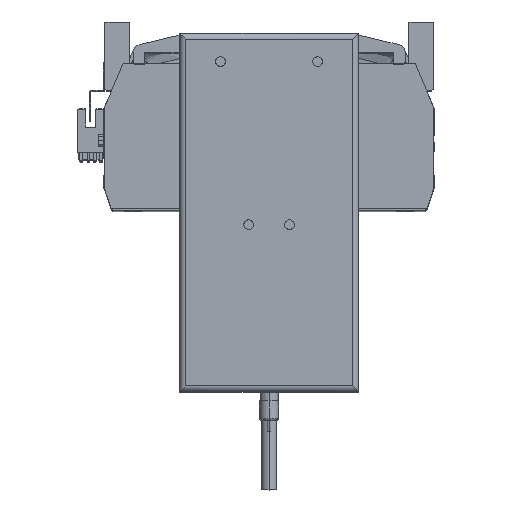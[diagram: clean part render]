
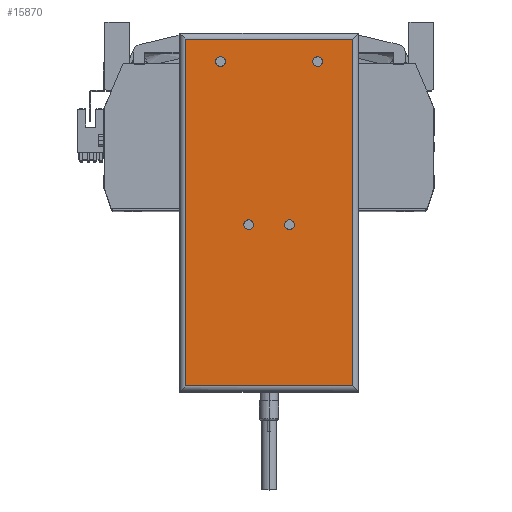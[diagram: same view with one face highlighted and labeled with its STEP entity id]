
A CAD part, top view. The second image highlights one B-rep face of the part: STEP entity #15870.
In plain terms, the highlighted planar face has unit normal (0, 0, 1) as drawn and (0, 0, -1) by its records, which use the part's own axes.
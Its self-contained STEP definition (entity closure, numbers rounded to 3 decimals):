
#134 = ORIENTED_EDGE ( 'NONE', *, *, #1371, .F. ) ;
#139 = EDGE_CURVE ( 'NONE', #4496, #37534, #4787, .T. ) ;
#1129 = CARTESIAN_POINT ( 'NONE',  ( -22.5, 77.75, 0. ) ) ;
#1210 = AXIS2_PLACEMENT_3D ( 'NONE', #12170, #4014, #11844 ) ;
#1371 = EDGE_CURVE ( 'NONE', #39621, #24571, #11243, .T. ) ;
#1943 = CARTESIAN_POINT ( 'NONE',  ( -25., 77.75, 0. ) ) ;
#2678 = ORIENTED_EDGE ( 'NONE', *, *, #3583, .F. ) ;
#2902 = VECTOR ( 'NONE', #12809, 1000. ) ;
#3386 = CIRCLE ( 'NONE', #1210, 2.5 ) ;
#3583 = EDGE_CURVE ( 'NONE', #28518, #31297, #12890, .T. ) ;
#3685 = AXIS2_PLACEMENT_3D ( 'NONE', #5775, #48059, #9919 ) ;
#3690 = VERTEX_POINT ( 'NONE', #48688 ) ;
#3797 = ORIENTED_EDGE ( 'NONE', *, *, #28939, .T. ) ;
#4014 = DIRECTION ( 'NONE',  ( 0., 0., -1. ) ) ;
#4045 = AXIS2_PLACEMENT_3D ( 'NONE', #43435, #43262, #12564 ) ;
#4460 = DIRECTION ( 'NONE',  ( -1., 0., 0. ) ) ;
#4471 = EDGE_LOOP ( 'NONE', ( #17378, #12291 ) ) ;
#4496 = VERTEX_POINT ( 'NONE', #41990 ) ;
#4631 = CARTESIAN_POINT ( 'NONE',  ( -43., -89.25, 0. ) ) ;
#4787 = CIRCLE ( 'NONE', #3685, 2.5 ) ;
#5355 = ORIENTED_EDGE ( 'NONE', *, *, #28790, .T. ) ;
#5361 = ORIENTED_EDGE ( 'NONE', *, *, #46850, .T. ) ;
#5427 = FACE_BOUND ( 'NONE', #12116, .T. ) ;
#5542 = PLANE ( 'NONE',  #49041 ) ;
#5775 = CARTESIAN_POINT ( 'NONE',  ( 10.5, -6.25, 0. ) ) ;
#6413 = CARTESIAN_POINT ( 'NONE',  ( -46., 89.25, 0. ) ) ;
#6464 = CARTESIAN_POINT ( 'NONE',  ( -46., -89.25, 0. ) ) ;
#6624 = EDGE_CURVE ( 'NONE', #29525, #3690, #25799, .T. ) ;
#7854 = VECTOR ( 'NONE', #25833, 1000. ) ;
#9359 = DIRECTION ( 'NONE',  ( 0., 0., 1. ) ) ;
#9919 = DIRECTION ( 'NONE',  ( -1., 0., 0. ) ) ;
#9979 = AXIS2_PLACEMENT_3D ( 'NONE', #19242, #11352, #41741 ) ;
#10278 = DIRECTION ( 'NONE',  ( -1., 0., 0. ) ) ;
#10706 = EDGE_CURVE ( 'NONE', #18763, #43748, #35216, .T. ) ;
#10748 = ORIENTED_EDGE ( 'NONE', *, *, #6624, .T. ) ;
#11243 = CIRCLE ( 'NONE', #4045, 2.5 ) ;
#11352 = DIRECTION ( 'NONE',  ( 0., 0., -1. ) ) ;
#11844 = DIRECTION ( 'NONE',  ( -1., 0., 0. ) ) ;
#12001 = EDGE_CURVE ( 'NONE', #24571, #39621, #38130, .T. ) ;
#12116 = EDGE_LOOP ( 'NONE', ( #23525, #134 ) ) ;
#12170 = CARTESIAN_POINT ( 'NONE',  ( 10.5, -6.25, 0. ) ) ;
#12291 = ORIENTED_EDGE ( 'NONE', *, *, #139, .F. ) ;
#12483 = CARTESIAN_POINT ( 'NONE',  ( -8., -6.25, 0. ) ) ;
#12564 = DIRECTION ( 'NONE',  ( -1., 0., 0. ) ) ;
#12809 = DIRECTION ( 'NONE',  ( 0., 1., 0. ) ) ;
#12890 = CIRCLE ( 'NONE', #16085, 2.5 ) ;
#13217 = DIRECTION ( 'NONE',  ( 1., 0., 0. ) ) ;
#14982 = FACE_BOUND ( 'NONE', #27461, .T. ) ;
#15870 = ADVANCED_FACE ( 'NONE', ( #29913, #5427, #48049, #14982, #26953 ), #5542, .F. ) ;
#16085 = AXIS2_PLACEMENT_3D ( 'NONE', #1943, #40614, #36399 ) ;
#17378 = ORIENTED_EDGE ( 'NONE', *, *, #19984, .F. ) ;
#18763 = VERTEX_POINT ( 'NONE', #30863 ) ;
#18776 = VERTEX_POINT ( 'NONE', #4631 ) ;
#18882 = VECTOR ( 'NONE', #10278, 1000. ) ;
#19052 = CARTESIAN_POINT ( 'NONE',  ( 43., 89.25, 0. ) ) ;
#19053 = CARTESIAN_POINT ( 'NONE',  ( -25., 77.75, 0. ) ) ;
#19242 = CARTESIAN_POINT ( 'NONE',  ( 25., 77.75, 0. ) ) ;
#19984 = EDGE_CURVE ( 'NONE', #37534, #4496, #3386, .T. ) ;
#20110 = EDGE_LOOP ( 'NONE', ( #44024, #24581 ) ) ;
#20271 = CARTESIAN_POINT ( 'NONE',  ( -10.5, -6.25, 0. ) ) ;
#20429 = DIRECTION ( 'NONE',  ( -1., 0., 0. ) ) ;
#21845 = CARTESIAN_POINT ( 'NONE',  ( 43., -92.25, 0. ) ) ;
#21936 = AXIS2_PLACEMENT_3D ( 'NONE', #19053, #27341, #4460 ) ;
#23064 = CARTESIAN_POINT ( 'NONE',  ( -27.5, 77.75, 0. ) ) ;
#23525 = ORIENTED_EDGE ( 'NONE', *, *, #12001, .F. ) ;
#24571 = VERTEX_POINT ( 'NONE', #28389 ) ;
#24581 = ORIENTED_EDGE ( 'NONE', *, *, #10706, .F. ) ;
#24679 = DIRECTION ( 'NONE',  ( -1., 0., 0. ) ) ;
#25799 = LINE ( 'NONE', #21845, #7854 ) ;
#25833 = DIRECTION ( 'NONE',  ( 0., -1., 0. ) ) ;
#25920 = CARTESIAN_POINT ( 'NONE',  ( 8., -6.25, 0. ) ) ;
#26953 = FACE_BOUND ( 'NONE', #20110, .T. ) ;
#27341 = DIRECTION ( 'NONE',  ( 0., 0., -1. ) ) ;
#27367 = LINE ( 'NONE', #39337, #2902 ) ;
#27461 = EDGE_LOOP ( 'NONE', ( #42481, #2678 ) ) ;
#28389 = CARTESIAN_POINT ( 'NONE',  ( -13., -6.25, 0. ) ) ;
#28518 = VERTEX_POINT ( 'NONE', #1129 ) ;
#28588 = CIRCLE ( 'NONE', #9979, 2.5 ) ;
#28790 = EDGE_CURVE ( 'NONE', #42916, #29525, #30828, .T. ) ;
#28939 = EDGE_CURVE ( 'NONE', #3690, #18776, #39293, .T. ) ;
#29525 = VERTEX_POINT ( 'NONE', #19052 ) ;
#29913 = FACE_OUTER_BOUND ( 'NONE', #36591, .T. ) ;
#30828 = LINE ( 'NONE', #6413, #32661 ) ;
#30863 = CARTESIAN_POINT ( 'NONE',  ( 27.5, 77.75, 0. ) ) ;
#31297 = VERTEX_POINT ( 'NONE', #23064 ) ;
#32661 = VECTOR ( 'NONE', #37453, 1000. ) ;
#32917 = CARTESIAN_POINT ( 'NONE',  ( -43., 89.25, 0. ) ) ;
#35216 = CIRCLE ( 'NONE', #41715, 2.5 ) ;
#35680 = DIRECTION ( 'NONE',  ( 0., 0., -1. ) ) ;
#36306 = EDGE_CURVE ( 'NONE', #43748, #18763, #28588, .T. ) ;
#36399 = DIRECTION ( 'NONE',  ( -1., 0., 0. ) ) ;
#36591 = EDGE_LOOP ( 'NONE', ( #10748, #3797, #5361, #5355 ) ) ;
#37453 = DIRECTION ( 'NONE',  ( 1., 0., 0. ) ) ;
#37534 = VERTEX_POINT ( 'NONE', #25920 ) ;
#38130 = CIRCLE ( 'NONE', #42721, 2.5 ) ;
#39293 = LINE ( 'NONE', #6464, #18882 ) ;
#39337 = CARTESIAN_POINT ( 'NONE',  ( -43., -92.25, 0. ) ) ;
#39581 = EDGE_CURVE ( 'NONE', #31297, #28518, #48824, .T. ) ;
#39621 = VERTEX_POINT ( 'NONE', #12483 ) ;
#39984 = CARTESIAN_POINT ( 'NONE',  ( 25., 77.75, 0. ) ) ;
#40222 = CARTESIAN_POINT ( 'NONE',  ( 22.5, 77.75, 0. ) ) ;
#40614 = DIRECTION ( 'NONE',  ( 0., 0., -1. ) ) ;
#41715 = AXIS2_PLACEMENT_3D ( 'NONE', #39984, #47230, #24679 ) ;
#41741 = DIRECTION ( 'NONE',  ( -1., 0., 0. ) ) ;
#41990 = CARTESIAN_POINT ( 'NONE',  ( 13., -6.25, 0. ) ) ;
#42481 = ORIENTED_EDGE ( 'NONE', *, *, #39581, .F. ) ;
#42721 = AXIS2_PLACEMENT_3D ( 'NONE', #20271, #35680, #20429 ) ;
#42916 = VERTEX_POINT ( 'NONE', #32917 ) ;
#43262 = DIRECTION ( 'NONE',  ( 0., 0., -1. ) ) ;
#43435 = CARTESIAN_POINT ( 'NONE',  ( -10.5, -6.25, 0. ) ) ;
#43748 = VERTEX_POINT ( 'NONE', #40222 ) ;
#44024 = ORIENTED_EDGE ( 'NONE', *, *, #36306, .F. ) ;
#46850 = EDGE_CURVE ( 'NONE', #18776, #42916, #27367, .T. ) ;
#47230 = DIRECTION ( 'NONE',  ( 0., 0., -1. ) ) ;
#47842 = CARTESIAN_POINT ( 'NONE',  ( -46., -92.25, 0. ) ) ;
#48049 = FACE_BOUND ( 'NONE', #4471, .T. ) ;
#48059 = DIRECTION ( 'NONE',  ( 0., 0., -1. ) ) ;
#48688 = CARTESIAN_POINT ( 'NONE',  ( 43., -89.25, 0. ) ) ;
#48824 = CIRCLE ( 'NONE', #21936, 2.5 ) ;
#49041 = AXIS2_PLACEMENT_3D ( 'NONE', #47842, #9359, #13217 ) ;
